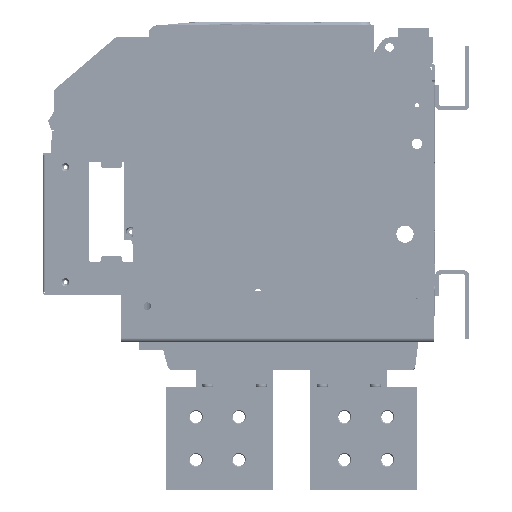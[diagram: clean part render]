
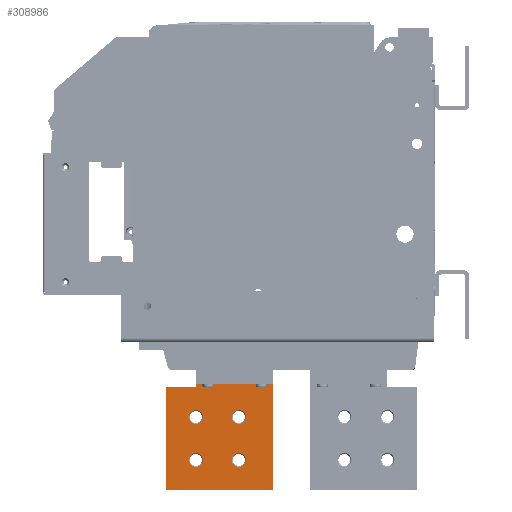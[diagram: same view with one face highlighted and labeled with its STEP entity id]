
A CAD part, left-side view. The second image highlights one B-rep face of the part: STEP entity #308986.
In plain terms, the highlighted planar face has unit normal (-1, 0, 0).
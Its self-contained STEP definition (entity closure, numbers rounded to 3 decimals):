
#415 = CARTESIAN_POINT ( 'NONE',  ( 557., 228., -99.834 ) ) ;
#21016 = AXIS2_PLACEMENT_3D ( 'NONE', #444860, #862552, #1030511 ) ;
#26510 = ORIENTED_EDGE ( 'NONE', *, *, #306539, .T. ) ;
#28803 = CARTESIAN_POINT ( 'NONE',  ( 557., 278., -60.834 ) ) ;
#38943 = VERTEX_POINT ( 'NONE', #886462 ) ;
#52431 = ORIENTED_EDGE ( 'NONE', *, *, #610964, .T. ) ;
#59814 = CARTESIAN_POINT ( 'NONE',  ( 557., 188., -52.834 ) ) ;
#63769 = ORIENTED_EDGE ( 'NONE', *, *, #373104, .T. ) ;
#77184 = ORIENTED_EDGE ( 'NONE', *, *, #1049173, .F. ) ;
#80816 = LINE ( 'NONE', #1062714, #128752 ) ;
#87630 = ORIENTED_EDGE ( 'NONE', *, *, #333775, .F. ) ;
#94562 = CARTESIAN_POINT ( 'NONE',  ( 557., 278., -99.834 ) ) ;
#113981 = ORIENTED_EDGE ( 'NONE', *, *, #909784, .T. ) ;
#126504 = DIRECTION ( 'NONE',  ( 0., 0., 1. ) ) ;
#128752 = VECTOR ( 'NONE', #824057, 1000. ) ;
#130993 = CIRCLE ( 'NONE', #304447, 8. ) ;
#139849 = CARTESIAN_POINT ( 'NONE',  ( 557., 228., -91.834 ) ) ;
#147458 = CIRCLE ( 'NONE', #511446, 8. ) ;
#152517 = DIRECTION ( 'NONE',  ( 1., 0., 0. ) ) ;
#155337 = ORIENTED_EDGE ( 'NONE', *, *, #709788, .T. ) ;
#175979 = DIRECTION ( 'NONE',  ( -1., 0., 0. ) ) ;
#187381 = VECTOR ( 'NONE', #466753, 1000. ) ;
#191610 = VERTEX_POINT ( 'NONE', #562388 ) ;
#200173 = DIRECTION ( 'NONE',  ( 1., 0., 0. ) ) ;
#201412 = CARTESIAN_POINT ( 'NONE',  ( 557., 228., -141.834 ) ) ;
#203115 = LINE ( 'NONE', #1032918, #697652 ) ;
#217290 = LINE ( 'NONE', #59814, #187381 ) ;
#217373 = DIRECTION ( 'NONE',  ( 1., 0., 0. ) ) ;
#218716 = CIRCLE ( 'NONE', #842196, 8. ) ;
#228554 = DIRECTION ( 'NONE',  ( 0., 0., 1. ) ) ;
#230570 = DIRECTION ( 'NONE',  ( 1., 0., 0. ) ) ;
#243403 = CIRCLE ( 'NONE', #467910, 8. ) ;
#269354 = EDGE_CURVE ( 'NONE', #877817, #285489, #370366, .T. ) ;
#270943 = VERTEX_POINT ( 'NONE', #402998 ) ;
#285489 = VERTEX_POINT ( 'NONE', #28803 ) ;
#292444 = ORIENTED_EDGE ( 'NONE', *, *, #701323, .F. ) ;
#304447 = AXIS2_PLACEMENT_3D ( 'NONE', #903050, #230570, #821734 ) ;
#306539 = EDGE_CURVE ( 'NONE', #374708, #1040795, #130993, .T. ) ;
#308986 = ADVANCED_FACE ( 'NONE', ( #1011242, #436166, #506836, #430852, #349438 ), #420145, .T. ) ;
#324923 = CARTESIAN_POINT ( 'NONE',  ( 557., 313., -64.834 ) ) ;
#325415 = EDGE_LOOP ( 'NONE', ( #909307, #427644 ) ) ;
#327309 = DIRECTION ( 'NONE',  ( 1., 0., 0. ) ) ;
#333775 = EDGE_CURVE ( 'NONE', #877817, #270943, #217290, .T. ) ;
#344147 = DIRECTION ( 'NONE',  ( 0., -1., 0. ) ) ;
#349438 = FACE_OUTER_BOUND ( 'NONE', #575179, .T. ) ;
#370366 = LINE ( 'NONE', #761416, #463539 ) ;
#373104 = EDGE_CURVE ( 'NONE', #563206, #646962, #218716, .T. ) ;
#373571 = LINE ( 'NONE', #959338, #523144 ) ;
#374708 = VERTEX_POINT ( 'NONE', #568700 ) ;
#374792 = DIRECTION ( 'NONE',  ( 0., 0., 1. ) ) ;
#402998 = CARTESIAN_POINT ( 'NONE',  ( 557., 188., -184.834 ) ) ;
#420145 = PLANE ( 'NONE',  #583251 ) ;
#423468 = VECTOR ( 'NONE', #919317, 1000. ) ;
#427644 = ORIENTED_EDGE ( 'NONE', *, *, #814514, .T. ) ;
#430852 = FACE_BOUND ( 'NONE', #325415, .T. ) ;
#436166 = FACE_BOUND ( 'NONE', #665905, .T. ) ;
#444860 = CARTESIAN_POINT ( 'NONE',  ( 557., 278., -99.834 ) ) ;
#449965 = VERTEX_POINT ( 'NONE', #848660 ) ;
#455801 = AXIS2_PLACEMENT_3D ( 'NONE', #951151, #712344, #126504 ) ;
#463539 = VECTOR ( 'NONE', #517151, 1000. ) ;
#466753 = DIRECTION ( 'NONE',  ( 0., 0., -1. ) ) ;
#467910 = AXIS2_PLACEMENT_3D ( 'NONE', #635026, #217373, #374792 ) ;
#468542 = ORIENTED_EDGE ( 'NONE', *, *, #269354, .T. ) ;
#474203 = ORIENTED_EDGE ( 'NONE', *, *, #500156, .F. ) ;
#484702 = CARTESIAN_POINT ( 'NONE',  ( 557., 278., -149.834 ) ) ;
#500156 = EDGE_CURVE ( 'NONE', #270943, #756909, #80816, .T. ) ;
#506836 = FACE_BOUND ( 'NONE', #646134, .T. ) ;
#511446 = AXIS2_PLACEMENT_3D ( 'NONE', #783689, #702349, #805040 ) ;
#517151 = DIRECTION ( 'NONE',  ( 0., 1., 0. ) ) ;
#523144 = VECTOR ( 'NONE', #948715, 1000. ) ;
#554767 = ORIENTED_EDGE ( 'NONE', *, *, #568905, .F. ) ;
#562388 = CARTESIAN_POINT ( 'NONE',  ( 557., 278., -91.834 ) ) ;
#563206 = VERTEX_POINT ( 'NONE', #793953 ) ;
#568700 = CARTESIAN_POINT ( 'NONE',  ( 557., 228., -157.834 ) ) ;
#568905 = EDGE_CURVE ( 'NONE', #659731, #1039139, #203115, .T. ) ;
#575179 = EDGE_LOOP ( 'NONE', ( #87630, #468542, #292444, #554767, #77184, #474203 ) ) ;
#583251 = AXIS2_PLACEMENT_3D ( 'NONE', #94562, #175979, #344147 ) ;
#588436 = CARTESIAN_POINT ( 'NONE',  ( 557., 278., -64.834 ) ) ;
#596451 = CARTESIAN_POINT ( 'NONE',  ( 557., 228., -99.834 ) ) ;
#610964 = EDGE_CURVE ( 'NONE', #646962, #563206, #753690, .T. ) ;
#624203 = CIRCLE ( 'NONE', #797680, 8. ) ;
#635026 = CARTESIAN_POINT ( 'NONE',  ( 557., 278., -149.834 ) ) ;
#646134 = EDGE_LOOP ( 'NONE', ( #155337, #113981 ) ) ;
#646962 = VERTEX_POINT ( 'NONE', #139849 ) ;
#659731 = VERTEX_POINT ( 'NONE', #324923 ) ;
#665905 = EDGE_LOOP ( 'NONE', ( #63769, #52431 ) ) ;
#669569 = CARTESIAN_POINT ( 'NONE',  ( 557., 278., -64.834 ) ) ;
#697652 = VECTOR ( 'NONE', #772875, 1000. ) ;
#701323 = EDGE_CURVE ( 'NONE', #1039139, #285489, #843368, .T. ) ;
#702349 = DIRECTION ( 'NONE',  ( 1., 0., 0. ) ) ;
#704115 = CARTESIAN_POINT ( 'NONE',  ( 557., 313., -184.834 ) ) ;
#709788 = EDGE_CURVE ( 'NONE', #38943, #449965, #624203, .T. ) ;
#712344 = DIRECTION ( 'NONE',  ( 1., 0., 0. ) ) ;
#714237 = CIRCLE ( 'NONE', #21016, 8. ) ;
#724393 = ORIENTED_EDGE ( 'NONE', *, *, #751808, .T. ) ;
#751808 = EDGE_CURVE ( 'NONE', #1040795, #374708, #1045016, .T. ) ;
#753690 = CIRCLE ( 'NONE', #805583, 8. ) ;
#756909 = VERTEX_POINT ( 'NONE', #704115 ) ;
#761416 = CARTESIAN_POINT ( 'NONE',  ( 557., 188., -60.834 ) ) ;
#764598 = DIRECTION ( 'NONE',  ( 0., 0., 1. ) ) ;
#768302 = VERTEX_POINT ( 'NONE', #842671 ) ;
#772875 = DIRECTION ( 'NONE',  ( 0., -1., 0. ) ) ;
#783689 = CARTESIAN_POINT ( 'NONE',  ( 557., 278., -99.834 ) ) ;
#793953 = CARTESIAN_POINT ( 'NONE',  ( 557., 228., -107.834 ) ) ;
#797680 = AXIS2_PLACEMENT_3D ( 'NONE', #484702, #327309, #815686 ) ;
#800424 = EDGE_LOOP ( 'NONE', ( #26510, #724393 ) ) ;
#805040 = DIRECTION ( 'NONE',  ( 0., 0., 1. ) ) ;
#805583 = AXIS2_PLACEMENT_3D ( 'NONE', #415, #152517, #228554 ) ;
#814514 = EDGE_CURVE ( 'NONE', #191610, #768302, #714237, .T. ) ;
#815686 = DIRECTION ( 'NONE',  ( 0., 0., 1. ) ) ;
#821734 = DIRECTION ( 'NONE',  ( 0., 0., 1. ) ) ;
#824057 = DIRECTION ( 'NONE',  ( 0., 1., 0. ) ) ;
#842196 = AXIS2_PLACEMENT_3D ( 'NONE', #596451, #200173, #764598 ) ;
#842671 = CARTESIAN_POINT ( 'NONE',  ( 557., 278., -107.834 ) ) ;
#843368 = LINE ( 'NONE', #588436, #423468 ) ;
#848660 = CARTESIAN_POINT ( 'NONE',  ( 557., 278., -141.834 ) ) ;
#862552 = DIRECTION ( 'NONE',  ( 1., 0., 0. ) ) ;
#877817 = VERTEX_POINT ( 'NONE', #1021647 ) ;
#886462 = CARTESIAN_POINT ( 'NONE',  ( 557., 278., -157.834 ) ) ;
#903050 = CARTESIAN_POINT ( 'NONE',  ( 557., 228., -149.834 ) ) ;
#909307 = ORIENTED_EDGE ( 'NONE', *, *, #1011191, .T. ) ;
#909784 = EDGE_CURVE ( 'NONE', #449965, #38943, #243403, .T. ) ;
#919317 = DIRECTION ( 'NONE',  ( 0., 0., 1. ) ) ;
#948715 = DIRECTION ( 'NONE',  ( 0., 0., 1. ) ) ;
#951151 = CARTESIAN_POINT ( 'NONE',  ( 557., 228., -149.834 ) ) ;
#959338 = CARTESIAN_POINT ( 'NONE',  ( 557., 313., -184.834 ) ) ;
#1011191 = EDGE_CURVE ( 'NONE', #768302, #191610, #147458, .T. ) ;
#1011242 = FACE_BOUND ( 'NONE', #800424, .T. ) ;
#1021647 = CARTESIAN_POINT ( 'NONE',  ( 557., 188., -60.834 ) ) ;
#1030511 = DIRECTION ( 'NONE',  ( 0., 0., 1. ) ) ;
#1032918 = CARTESIAN_POINT ( 'NONE',  ( 557., 313., -64.834 ) ) ;
#1039139 = VERTEX_POINT ( 'NONE', #669569 ) ;
#1040795 = VERTEX_POINT ( 'NONE', #201412 ) ;
#1045016 = CIRCLE ( 'NONE', #455801, 8. ) ;
#1049173 = EDGE_CURVE ( 'NONE', #756909, #659731, #373571, .T. ) ;
#1062714 = CARTESIAN_POINT ( 'NONE',  ( 557., 193., -184.834 ) ) ;
